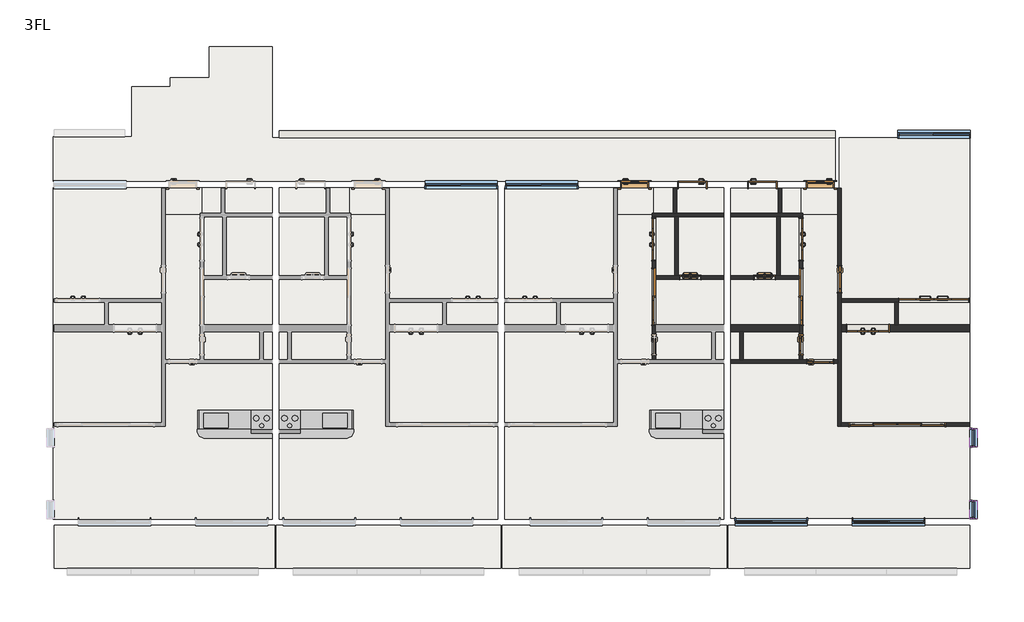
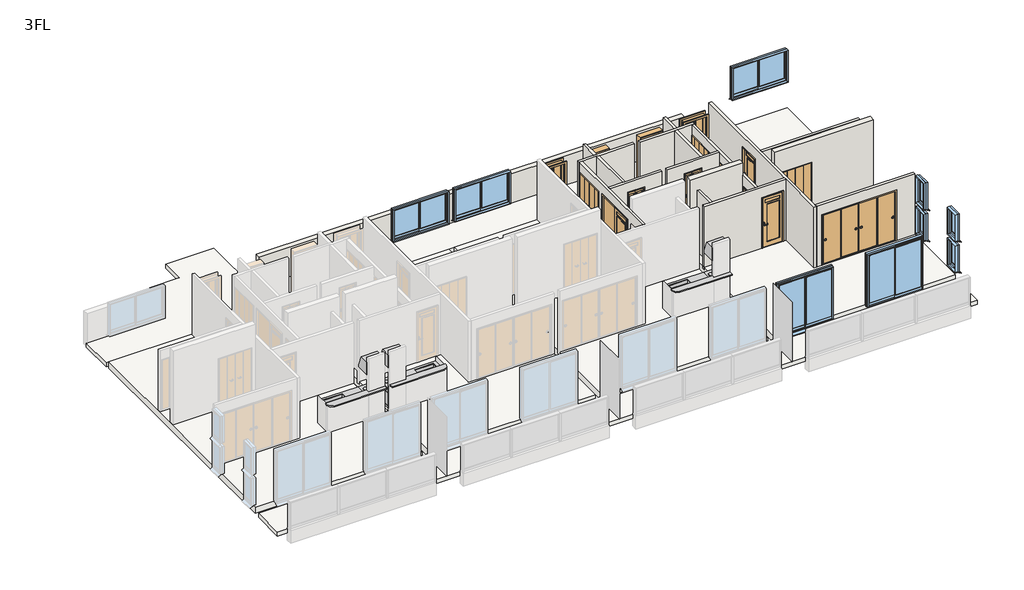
# One storey, part 3 of 3: 19 walls, 16 doors, 14 slabs, 9 windows, 3 flow terminals, 3 furniture elements.
"""IFC4 building model written with IfcOpenShell, lengths in millimetres."""

from ifc_helpers import new_model, si_unit, frame, origin, place, context, project, spatial, polyline, outline, extrude, faceted_brep, transform, mapped, element, save
from components import door_800x2000_a7d1584b, door_800x2000_010bfebf, w1200h2000_6a144d60, w1200h2000_99d19fb3, w1200h2000_ebe1d490, w1600h2000_4c3c234a, w1600h2000_ca690e72, w2000h2000_5dbb6d6a, w2800h2000_04aa64cd, w600h2000_6a266bef, w600h2000_94bb9c3c, w600h2000_8ea70a65, w800h2000_1d97c4d4, w800h2000_0ab7d42c, w800h2000_13e9f519, w800h2000_ccb03061, flow_terminal_5276808d, flow_terminal_b13850ba, furniture_3a0496f9, furniture_dadabe7c, window_2000x1200_fc91d1cf, window_2000x2000_f1ff98da, window_450x1000_1cddc73c

model = new_model("IFC4")

# Units and contexts
model_context = context("Model", 3, world=origin())
ifc_project = project(units=[si_unit("LENGTHUNIT", "METRE", prefix="MILLI")], contexts=[model_context])

# Site, building, storey
site = spatial("IfcSite", under=ifc_project)
building = spatial("IfcBuilding", under=site)
storey = spatial("IfcBuildingStorey", under=building, Name="3FL", Elevation=7000.0)

# Doors
placement = place(None, origin())
door_800x2000_shape = door_800x2000_a7d1584b(model_context)
element("IfcDoor", 1, ObjectType="片開き3 : 800x2000", at=placement, inside=storey, context=model_context, shape_type="MappedRepresentation", body=[
    mapped(door_800x2000_shape, transform((5521.2812754, -5726.3671638, 7000.0), x_axis=(1.0, 0.0, 0.0), y_axis=(0.0, 1.0, 0.0), z_axis=(0.0, 0.0, 1.0))),
])
door_800x2000_2_shape = door_800x2000_010bfebf(model_context)
element("IfcDoor", 2, ObjectType="片開き3 : 800x2000", at=placement, inside=storey, context=model_context, shape_type="MappedRepresentation", body=[
    mapped(door_800x2000_2_shape, transform((10821.2812754, -5726.3671638, 7000.0), x_axis=(-1.0, 0.0, 0.0), y_axis=(0.0, -1.0, 0.0), z_axis=(0.0, 0.0, 1.0))),
])
w1200h2000_shape = w1200h2000_6a144d60(model_context)
element("IfcDoor", 3, ObjectType="木製折戸 : w1200h2000", at=placement, inside=storey, context=model_context, shape_type="MappedRepresentation", body=[
    mapped(w1200h2000_shape, transform((6071.2812754, -7280.1171638, 7100.0), x_axis=(0.0, 1.0, 0.0), y_axis=(-1.0, 0.0, 0.0), z_axis=(0.0, 0.0, 1.0))),
])
w1200h2000_2_shape = w1200h2000_99d19fb3(model_context)
element("IfcDoor", 4, ObjectType="木製折戸 : w1200h2000", at=placement, inside=storey, context=model_context, shape_type="MappedRepresentation", body=[
    mapped(w1200h2000_2_shape, transform((10271.2812754, -7280.1171638, 7100.0), x_axis=(0.0, 1.0, 0.0), y_axis=(-1.0, 0.0, 0.0), z_axis=(0.0, 0.0, 1.0))),
])
w1200h2000_3_shape = w1200h2000_ebe1d490(model_context)
element("IfcDoor", 5, ObjectType="木製折戸 : w1200h2000", at=placement, inside=storey, context=model_context, shape_type="MappedRepresentation", body=[
    mapped(w1200h2000_3_shape, transform((12183.7812754, -9820.1171638, 7100.0), x_axis=(1.0, 0.0, 0.0), y_axis=(0.0, 1.0, 0.0), z_axis=(0.0, 0.0, 1.0))),
])
w1600h2000_shape = w1600h2000_4c3c234a(model_context)
element("IfcDoor", 6, ObjectType="片引戸CL2017 : w1600h2000", at=placement, inside=storey, context=model_context, shape_type="MappedRepresentation", body=[
    mapped(w1600h2000_shape, transform((6071.2812754, -8920.1171638, 7100.0), x_axis=(0.0, -1.0, 0.0), y_axis=(1.0, 0.0, 0.0), z_axis=(0.0, 0.0, 1.0))),
])
w1600h2000_2_shape = w1600h2000_ca690e72(model_context)
element("IfcDoor", 7, ObjectType="片引戸CL2017 : w1600h2000", at=placement, inside=storey, context=model_context, shape_type="MappedRepresentation", body=[
    mapped(w1600h2000_2_shape, transform((10271.2812754, -8920.1171638, 7100.0), x_axis=(0.0, -1.0, 0.0), y_axis=(1.0, 0.0, 0.0), z_axis=(0.0, 0.0, 1.0))),
])
w2000h2000_shape = w2000h2000_5dbb6d6a(model_context)
element("IfcDoor", 8, ObjectType="木製折戸 : w2000h2000", at=placement, inside=storey, context=model_context, shape_type="MappedRepresentation", body=[
    mapped(w2000h2000_shape, transform((14066.2812754, -9020.1171638, 7100.0), x_axis=(-1.0, 0.0, 0.0), y_axis=(0.0, -1.0, 0.0), z_axis=(0.0, 0.0, 1.0))),
])
w2800h2000_shape = w2800h2000_04aa64cd(model_context)
element("IfcDoor", 9, ObjectType="引違い 4 枚 2 溝_襖 : w2800h2000", at=placement, inside=storey, context=model_context, shape_type="MappedRepresentation", body=[
    mapped(w2800h2000_shape, transform((13026.8167793, -12570.1171638, 7100.0), x_axis=(1.0, 0.0, 0.0), y_axis=(0.0, 1.0, 0.0), z_axis=(0.0, 0.0, 1.0))),
])
w600h2000_shape = w600h2000_6a266bef(model_context)
element("IfcDoor", 10, ObjectType="浴室折戸 : w600h2000", at=placement, inside=storey, context=model_context, shape_type="MappedRepresentation", body=[
    mapped(w600h2000_shape, transform((7111.2812754, -8370.1171638, 7100.0), x_axis=(1.0, 0.0, 0.0), y_axis=(0.0, 1.0, 0.0), z_axis=(0.0, 0.0, 1.0))),
])
w600h2000_2_shape = w600h2000_94bb9c3c(model_context)
element("IfcDoor", 11, ObjectType="浴室折戸 : w600h2000", at=placement, inside=storey, context=model_context, shape_type="MappedRepresentation", body=[
    mapped(w600h2000_2_shape, transform((9231.2812754, -8370.1171638, 7100.0), x_axis=(-1.0, 0.0, 0.0), y_axis=(0.0, -1.0, 0.0), z_axis=(0.0, 0.0, 1.0))),
])
w600h2000_3_shape = w600h2000_8ea70a65(model_context)
element("IfcDoor", 12, ObjectType="片開戸CL2058 : w600h2000", at=placement, inside=storey, context=model_context, shape_type="MappedRepresentation", body=[
    mapped(w600h2000_3_shape, transform((10271.2812754, -10295.1171638, 7100.0), x_axis=(0.0, -1.0, 0.0), y_axis=(1.0, 0.0, 0.0), z_axis=(0.0, 0.0, 1.0))),
])
w800h2000_shape = w800h2000_1d97c4d4(model_context)
element("IfcDoor", 13, ObjectType="片開 : w800h2000", at=placement, inside=storey, context=model_context, shape_type="MappedRepresentation", body=[
    mapped(w800h2000_shape, transform((7171.2812754, -5726.3671638, 7000.0), x_axis=(-1.0, 0.0, 0.0), y_axis=(0.0, -1.0, 0.0), z_axis=(0.0, 0.0, 1.0))),
])
w800h2000_2_shape = w800h2000_0ab7d42c(model_context)
element("IfcDoor", 14, ObjectType="片開 : w800h2000", at=placement, inside=storey, context=model_context, shape_type="MappedRepresentation", body=[
    mapped(w800h2000_2_shape, transform((9171.2812754, -5726.3671638, 7000.0), x_axis=(1.0, 0.0, 0.0), y_axis=(0.0, 1.0, 0.0), z_axis=(0.0, 0.0, 1.0))),
])
w800h2000_3_shape = w800h2000_13e9f519(model_context)
element("IfcDoor", 15, ObjectType="片開戸CL2058 : w800h2000", at=placement, inside=storey, context=model_context, shape_type="MappedRepresentation", body=[
    mapped(w800h2000_3_shape, transform((10821.2812754, -10770.1171638, 7100.0), x_axis=(1.0, 0.0, 0.0), y_axis=(0.0, 1.0, 0.0), z_axis=(0.0, 0.0, 1.0))),
])
w800h2000_4_shape = w800h2000_ccb03061(model_context)
element("IfcDoor", 16, ObjectType="片開戸CL2058 : w800h2000", at=placement, inside=storey, context=model_context, shape_type="MappedRepresentation", body=[
    mapped(w800h2000_4_shape, transform((11371.2812754, -8420.1171638, 7100.0), x_axis=(0.0, -1.0, 0.0), y_axis=(1.0, 0.0, 0.0), z_axis=(0.0, 0.0, 1.0))),
])

# Flow terminals
flow_terminal_shape = flow_terminal_5276808d(model_context)
element("IfcFlowTerminal", 17, ObjectType="システムキッチンIH : システムキッチンIH", at=placement, inside=storey, context=model_context, shape_type="MappedRepresentation", body=[
    mapped(flow_terminal_shape, transform((-4828.7187246, -12720.1171638, 7200.0), x_axis=(1.0, 0.0, 0.0), y_axis=(0.0, 1.0, 0.0), z_axis=(0.0, 0.0, 1.0))),
])
element("IfcFlowTerminal", 18, ObjectType="システムキッチンIH : システムキッチンIH", at=placement, inside=storey, context=model_context, shape_type="MappedRepresentation", body=[
    mapped(flow_terminal_shape, transform((8071.2812754, -12720.1171638, 7200.0), x_axis=(1.0, 0.0, 0.0), y_axis=(0.0, 1.0, 0.0), z_axis=(0.0, 0.0, 1.0))),
])
flow_terminal_2_shape = flow_terminal_b13850ba(model_context)
element("IfcFlowTerminal", 19, ObjectType="システムキッチンIH : システムキッチンIH", at=placement, inside=storey, context=model_context, shape_type="MappedRepresentation", body=[
    mapped(flow_terminal_2_shape, transform((-4628.7187246, -12720.1171638, 7200.0), x_axis=(-1.0, 0.0, 0.0), y_axis=(0.0, -1.0, 0.0), z_axis=(0.0, 0.0, 1.0))),
])

# Furniture
furniture_shape = furniture_3a0496f9(model_context)
element("IfcFurniture", 20, ObjectType="キッチンカウンター : キッチンカウンター", at=placement, inside=storey, context=model_context, shape_type="MappedRepresentation", body=[
    mapped(furniture_shape, transform((-4628.7187246, -12820.1171638, 7100.0), x_axis=(-1.0, 0.0, 0.0), y_axis=(0.0, -1.0, 0.0), z_axis=(0.0, 0.0, 1.0))),
])
furniture_2_shape = furniture_dadabe7c(model_context)
element("IfcFurniture", 21, ObjectType="キッチンカウンター : キッチンカウンター", at=placement, inside=storey, context=model_context, shape_type="MappedRepresentation", body=[
    mapped(furniture_2_shape, transform((-4828.7187246, -12820.1171638, 7100.0), x_axis=(1.0, 0.0, 0.0), y_axis=(0.0, 1.0, 0.0), z_axis=(0.0, 0.0, 1.0))),
])
element("IfcFurniture", 22, ObjectType="キッチンカウンター : キッチンカウンター", at=placement, inside=storey, context=model_context, shape_type="MappedRepresentation", body=[
    mapped(furniture_2_shape, transform((8071.2812754, -12820.1171638, 7100.0), x_axis=(1.0, 0.0, 0.0), y_axis=(0.0, 1.0, 0.0), z_axis=(0.0, 0.0, 1.0))),
])

# Slabs
element("IfcSlab", 23, ObjectType="RC150＋100", at=placement, inside=storey, context=model_context, shape_type="SweptSolid", body=[
    extrude(outline(polyline([(-4828.7187246, -15270.1171638), (-11078.7187246, -15270.1171638), (-11078.7187246, -5800.1171638), (-7928.7187246, -5800.1171638), (-7928.7187246, -6580.1171638), (-6828.7187246, -6580.1171638), (-6828.7187246, -5800.1171638), (-4828.7187246, -5800.1171638), (-4828.7187246, -6580.1171638), (-6188.7187246, -6580.1171638), (-6188.7187246, -8370.1171638), (-4828.7187246, -8370.1171638), (-4828.7187246, -15270.1171638)])), frame((0.0, 0.0, 6850.0), z_axis=(0.0, 0.0, 1.0), x_axis=(1.0, 0.0, 0.0)), (0.0, 0.0, 1.0), 250.0),
])
element("IfcSlab", 24, ObjectType="RC150＋100", at=placement, inside=storey, context=model_context, shape_type="SweptSolid", body=[
    extrude(outline(polyline([(-4628.7187246, -15270.1171638), (-4628.7187246, -8370.1171638), (-3268.7187246, -8370.1171638), (-3268.7187246, -6580.1171638), (-4628.7187246, -6580.1171638), (-4628.7187246, -5800.1171638), (-2628.7187246, -5800.1171638), (-2628.7187246, -6580.1171638), (-1528.7187246, -6580.1171638), (-1528.7187246, -5800.1171638), (1621.2812754, -5800.1171638), (1621.2812754, -15270.1171638), (-4628.7187246, -15270.1171638)])), frame((0.0, 0.0, 6850.0), z_axis=(0.0, 0.0, 1.0), x_axis=(1.0, 0.0, 0.0)), (0.0, 0.0, 1.0), 250.0),
])
element("IfcSlab", 25, ObjectType="RC150＋100", at=placement, inside=storey, context=model_context, shape_type="SweptSolid", body=[
    extrude(outline(polyline([(8071.2812754, -15270.1171638), (1821.2812754, -15270.1171638), (1821.2812754, -5800.1171638), (4971.2812754, -5800.1171638), (4971.2812754, -6580.1171638), (6071.2812754, -6580.1171638), (6071.2812754, -5800.1171638), (8071.2812754, -5800.1171638), (8071.2812754, -6580.1171638), (6711.2812754, -6580.1171638), (6711.2812754, -8370.1171638), (8071.2812754, -8370.1171638), (8071.2812754, -15270.1171638)])), frame((0.0, 0.0, 6850.0), z_axis=(0.0, 0.0, 1.0), x_axis=(1.0, 0.0, 0.0)), (0.0, 0.0, 1.0), 250.0),
])
element("IfcSlab", 26, ObjectType="RC150＋100", at=placement, inside=storey, context=model_context, shape_type="SweptSolid", body=[
    extrude(outline(polyline([(8271.2812754, -15243.8671638), (8271.2812754, -8370.1171638), (9631.2812754, -8370.1171638), (9631.2812754, -6580.1171638), (8271.2812754, -6580.1171638), (8271.2812754, -5826.3671638), (10271.2812754, -5826.3671638), (10271.2812754, -6580.1171638), (11371.2812754, -6580.1171638), (11371.2812754, -4376.3671638), (15095.0312754, -4376.3671638), (15095.0312754, -15243.8671638), (8271.2812754, -15243.8671638)])), frame((0.0, 0.0, 6850.0), z_axis=(0.0, 0.0, 1.0), x_axis=(1.0, 0.0, 0.0)), (0.0, 0.0, 1.0), 250.0),
])
element("IfcSlab", 27, ObjectType="RC150", at=placement, inside=storey, context=model_context, shape_type="SweptSolid", body=[
    extrude(outline(polyline([(-4828.7187246, -8370.1171638), (-6188.7187246, -8370.1171638), (-6188.7187246, -6580.1171638), (-4828.7187246, -6580.1171638), (-4828.7187246, -8370.1171638)])), frame((0.0, 0.0, 6850.0), z_axis=(0.0, 0.0, 1.0), x_axis=(1.0, 0.0, 0.0)), (0.0, 0.0, 1.0), 150.0),
])
element("IfcSlab", 28, ObjectType="RC150", at=placement, inside=storey, context=model_context, shape_type="SweptSolid", body=[
    extrude(outline(polyline([(-6828.7187246, -6580.1171638), (-7928.7187246, -6580.1171638), (-7928.7187246, -5800.1171638), (-6828.7187246, -5800.1171638), (-6828.7187246, -6580.1171638)])), frame((0.0, 0.0, 6800.0), z_axis=(0.0, 0.0, 1.0), x_axis=(1.0, 0.0, 0.0)), (0.0, 0.0, 1.0), 150.0),
])
element("IfcSlab", 29, ObjectType="RC150", at=placement, inside=storey, context=model_context, shape_type="SweptSolid", body=[
    extrude(outline(polyline([(-4628.7187246, -8370.1171638), (-4628.7187246, -6580.1171638), (-3268.7187246, -6580.1171638), (-3268.7187246, -8370.1171638), (-4628.7187246, -8370.1171638)])), frame((0.0, 0.0, 6850.0), z_axis=(0.0, 0.0, 1.0), x_axis=(1.0, 0.0, 0.0)), (0.0, 0.0, 1.0), 150.0),
])
element("IfcSlab", 30, ObjectType="RC150", at=placement, inside=storey, context=model_context, shape_type="SweptSolid", body=[
    extrude(outline(polyline([(-2628.7187246, -6580.1171638), (-2628.7187246, -5800.1171638), (-1528.7187246, -5800.1171638), (-1528.7187246, -6580.1171638), (-2628.7187246, -6580.1171638)])), frame((0.0, 0.0, 6800.0), z_axis=(0.0, 0.0, 1.0), x_axis=(1.0, 0.0, 0.0)), (0.0, 0.0, 1.0), 150.0),
])
element("IfcSlab", 31, ObjectType="RC150", at=placement, inside=storey, context=model_context, shape_type="SweptSolid", body=[
    extrude(outline(polyline([(8071.2812754, -8370.1171638), (6711.2812754, -8370.1171638), (6711.2812754, -6580.1171638), (8071.2812754, -6580.1171638), (8071.2812754, -8370.1171638)])), frame((0.0, 0.0, 6850.0), z_axis=(0.0, 0.0, 1.0), x_axis=(1.0, 0.0, 0.0)), (0.0, 0.0, 1.0), 150.0),
])
element("IfcSlab", 32, ObjectType="RC150", at=placement, inside=storey, context=model_context, shape_type="SweptSolid", body=[
    extrude(outline(polyline([(6071.2812754, -6580.1171638), (4971.2812754, -6580.1171638), (4971.2812754, -5800.1171638), (6071.2812754, -5800.1171638), (6071.2812754, -6580.1171638)])), frame((0.0, 0.0, 6800.0), z_axis=(0.0, 0.0, 1.0), x_axis=(1.0, 0.0, 0.0)), (0.0, 0.0, 1.0), 150.0),
])
element("IfcSlab", 33, ObjectType="RC150", at=placement, inside=storey, context=model_context, shape_type="SweptSolid", body=[
    extrude(outline(polyline([(8271.2812754, -8370.1171638), (8271.2812754, -6580.1171638), (9631.2812754, -6580.1171638), (9631.2812754, -8370.1171638), (8271.2812754, -8370.1171638)])), frame((0.0, 0.0, 6850.0), z_axis=(0.0, 0.0, 1.0), x_axis=(1.0, 0.0, 0.0)), (0.0, 0.0, 1.0), 150.0),
])
element("IfcSlab", 34, ObjectType="RC150", at=placement, inside=storey, context=model_context, shape_type="SweptSolid", body=[
    extrude(outline(polyline([(10271.2812754, -6580.1171638), (10271.2812754, -5826.3671638), (11371.2812754, -5826.3671638), (11371.2812754, -6580.1171638), (10271.2812754, -6580.1171638)])), frame((0.0, 0.0, 6800.0), z_axis=(0.0, 0.0, 1.0), x_axis=(1.0, 0.0, 0.0)), (0.0, 0.0, 1.0), 150.0),
])
element("IfcSlab", 35, ObjectType="RC150", at=placement, inside=storey, context=model_context, shape_type="SweptSolid", body=[
    extrude(outline(polyline([(15095.0312754, -15443.8671638), (15095.0312754, -16670.1171638), (-11052.4687246, -16670.1171638), (-11052.4687246, -15443.8671638), (15095.0312754, -15443.8671638)])), frame((0.0, 0.0, 6800.0), z_axis=(0.0, 0.0, 1.0), x_axis=(1.0, 0.0, 0.0)), (0.0, 0.0, 1.0), 150.0),
])
element("IfcSlab", 36, ObjectType="RC150", at=placement, inside=storey, context=model_context, shape_type="SweptSolid", body=[
    extrude(outline(polyline([(-8828.7187246, -4350.1171638), (-8828.7187246, -2920.1171638), (-7728.7187246, -2920.1171638), (-7728.7187246, -2660.1171638), (-6628.7187246, -2660.1171638), (-6628.7187246, -1775.1171638), (-4828.7187246, -1775.1171638), (-4828.7187246, -4376.3671638), (11247.5312754, -4376.3671638), (11247.5312754, -5626.3671638), (-11078.7187246, -5626.3671638), (-11078.7187246, -4350.1171638), (-8828.7187246, -4350.1171638)])), frame((0.0, 0.0, 6800.0), z_axis=(0.0, 0.0, 1.0), x_axis=(1.0, 0.0, 0.0)), (0.0, 0.0, 1.0), 150.0),
])

# Walls
element("IfcWall", 37, ObjectType="(R)RC200", at=placement, inside=storey, context=model_context, shape_type="Brep", body=[
    faceted_brep([(15095.0312754, -9720.1171638, 7000.0), (13046.2812754, -9720.1171638, 7000.0), (12946.2812754, -9720.1171638, 7000.0), (11421.2812754, -9720.1171638, 7000.0), (11421.2812754, -9720.1171638, 10000.0), (15095.0312754, -9720.1171638, 10000.0), (12803.7812754, -9720.1171638, 9120.0), (11563.7812754, -9720.1171638, 9120.0), (11563.7812754, -9720.1171638, 7100.0), (12803.7812754, -9720.1171638, 7100.0), (15095.0312754, -9920.1171638, 7000.0), (15095.0312754, -9920.1171638, 10000.0), (11421.2812754, -9920.1171638, 10000.0), (11421.2812754, -9920.1171638, 7000.0), (12803.7812754, -9920.1171638, 9120.0), (12803.7812754, -9920.1171638, 7100.0), (11563.7812754, -9920.1171638, 7100.0), (11563.7812754, -9920.1171638, 9120.0)], [[[0, 1, 2, 3, 4, 5], [6, 7, 8, 9]], [[10, 11, 12, 13], [14, 15, 16, 17]], [[3, 2, 1, 0, 10, 13]], [[5, 4, 12, 11]], [[4, 3, 13, 12]], [[15, 14, 6, 9]], [[16, 15, 9, 8]], [[17, 16, 8, 7]], [[14, 17, 7, 6]], [[0, 5, 11, 10]]]),
])
element("IfcWall", 38, ObjectType="(R)RC200", at=placement, inside=storey, context=model_context, shape_type="Brep", body=[
    faceted_brep([(10221.2812754, -9720.1171638, 7000.0), (8271.2812754, -9720.1171638, 7000.0), (8271.2812754, -9720.1171638, 10000.0), (10221.2812754, -9720.1171638, 10000.0), (10221.2812754, -9920.1171638, 7000.0), (10221.2812754, -9920.1171638, 10000.0), (8271.2812754, -9920.1171638, 10000.0), (8271.2812754, -9920.1171638, 7000.0), (8521.2812754, -9920.1171638, 7000.0), (8621.2812754, -9920.1171638, 7000.0)], [[[0, 1, 2, 3]], [[4, 5, 6, 7, 8, 9]], [[1, 0, 4, 9, 8, 7]], [[3, 2, 6, 5]], [[0, 3, 5, 4]], [[2, 1, 7, 6]]]),
])
element("IfcWall", 39, ObjectType="(R)RC200", at=placement, inside=storey, context=model_context, shape_type="SweptSolid", body=[
    extrude(outline(polyline([(11247.5312754, -4376.3671638), (-4628.7187246, -4376.3671638), (-4628.7187246, -4176.3671638), (11247.5312754, -4176.3671638), (11247.5312754, -4376.3671638)])), frame((0.0, 0.0, 6800.0), z_axis=(0.0, 0.0, 1.0), x_axis=(1.0, 0.0, 0.0)), (0.0, 0.0, 1.0), 1300.0),
])
element("IfcWall", 40, ObjectType="(L1)LGS100", at=placement, inside=storey, context=model_context, shape_type="Brep", body=[
    faceted_brep([(6121.2812754, -8420.1171638, 7000.0), (8071.2812754, -8420.1171638, 7000.0), (8071.2812754, -8420.1171638, 9500.0), (6121.2812754, -8420.1171638, 9500.0), (7431.2812754, -8420.1171638, 9120.0), (7431.2812754, -8420.1171638, 7100.0), (6791.2812754, -8420.1171638, 7100.0), (6791.2812754, -8420.1171638, 9120.0), (6121.2812754, -8320.1171638, 7000.0), (6121.2812754, -8320.1171638, 9500.0), (6661.2812754, -8320.1171638, 9500.0), (6761.2812754, -8320.1171638, 9500.0), (8071.2812754, -8320.1171638, 9500.0), (8071.2812754, -8320.1171638, 7000.0), (6761.2812754, -8320.1171638, 7000.0), (6661.2812754, -8320.1171638, 7000.0), (7431.2812754, -8320.1171638, 9120.0), (6791.2812754, -8320.1171638, 9120.0), (6791.2812754, -8320.1171638, 7100.0), (7431.2812754, -8320.1171638, 7100.0)], [[[0, 1, 2, 3], [4, 5, 6, 7]], [[8, 9, 10, 11, 12, 13, 14, 15], [16, 17, 18, 19]], [[1, 0, 8, 15, 14, 13]], [[3, 2, 12, 11, 10, 9]], [[0, 3, 9, 8]], [[5, 4, 16, 19]], [[6, 5, 19, 18]], [[7, 6, 18, 17]], [[4, 7, 17, 16]], [[2, 1, 13, 12]]]),
])
element("IfcWall", 41, ObjectType="(L1)LGS100", at=placement, inside=storey, context=model_context, shape_type="Brep", body=[
    faceted_brep([(6121.2812754, -10720.1171638, 7000.0), (6121.2812754, -9920.1171638, 7000.0), (6121.2812754, -9720.1171638, 7000.0), (6121.2812754, -8420.1171638, 7000.0), (6121.2812754, -8320.1171638, 7000.0), (6121.2812754, -6630.1171638, 7000.0), (6121.2812754, -6630.1171638, 9500.0), (6121.2812754, -8320.1171638, 9500.0), (6121.2812754, -8420.1171638, 9500.0), (6121.2812754, -10720.1171638, 9500.0), (6121.2812754, -10595.1171638, 7100.0), (6121.2812754, -10595.1171638, 9100.0), (6121.2812754, -9995.1171638, 9100.0), (6121.2812754, -9995.1171638, 7100.0), (6121.2812754, -6660.1171638, 7100.0), (6121.2812754, -7900.1171638, 7100.0), (6121.2812754, -7900.1171638, 9120.0), (6121.2812754, -6660.1171638, 9120.0), (6121.2812754, -9745.1171638, 7100.0), (6121.2812754, -9745.1171638, 9140.0), (6121.2812754, -8095.1171638, 9140.0), (6121.2812754, -8095.1171638, 7100.0), (6021.2812754, -6630.1171638, 7000.0), (6021.2812754, -10720.1171638, 7000.0), (6021.2812754, -10720.1171638, 9500.0), (6021.2812754, -6630.1171638, 9500.0), (6021.2812754, -10595.1171638, 9100.0), (6021.2812754, -10595.1171638, 7100.0), (6021.2812754, -9995.1171638, 7100.0), (6021.2812754, -9995.1171638, 9100.0), (6021.2812754, -7900.1171638, 7100.0), (6021.2812754, -6660.1171638, 7100.0), (6021.2812754, -6660.1171638, 9120.0), (6021.2812754, -7900.1171638, 9120.0), (6021.2812754, -9745.1171638, 7100.0), (6021.2812754, -8095.1171638, 7100.0), (6021.2812754, -8095.1171638, 9140.0), (6021.2812754, -9745.1171638, 9140.0)], [[[0, 1, 2, 3, 4, 5, 6, 7, 8, 9], [10, 11, 12, 13], [14, 15, 16, 17], [18, 19, 20, 21]], [[22, 23, 24, 25], [26, 27, 28, 29], [30, 31, 32, 33], [34, 35, 36, 37]], [[5, 4, 3, 2, 1, 0, 23, 22]], [[9, 8, 7, 6, 25, 24]], [[0, 9, 24, 23]], [[11, 10, 27, 26]], [[12, 11, 26, 29]], [[13, 12, 29, 28]], [[10, 13, 28, 27]], [[14, 31, 30, 15]], [[15, 30, 33, 16]], [[16, 33, 32, 17]], [[19, 18, 34, 37]], [[20, 19, 37, 36]], [[21, 20, 36, 35]], [[18, 21, 35, 34]], [[31, 14, 17, 32]], [[6, 5, 22, 25]]]),
])
element("IfcWall", 42, ObjectType="(L1)LGS100", at=placement, inside=storey, context=model_context, shape_type="Brep", body=[
    faceted_brep([(6021.2812754, -6630.1171638, 7000.0), (6121.2812754, -6630.1171638, 7000.0), (6661.2812754, -6630.1171638, 7000.0), (6761.2812754, -6630.1171638, 7000.0), (8071.2812754, -6630.1171638, 7000.0), (8071.2812754, -6630.1171638, 9500.0), (6761.2812754, -6630.1171638, 9500.0), (6661.2812754, -6630.1171638, 9500.0), (6121.2812754, -6630.1171638, 9500.0), (6021.2812754, -6630.1171638, 9500.0), (6021.2812754, -6530.1171638, 7000.0), (6021.2812754, -6530.1171638, 9500.0), (6621.2812754, -6530.1171638, 9500.0), (6721.2812754, -6530.1171638, 9500.0), (8071.2812754, -6530.1171638, 9500.0), (8071.2812754, -6530.1171638, 7000.0), (6721.2812754, -6530.1171638, 7000.0), (6621.2812754, -6530.1171638, 7000.0)], [[[0, 1, 2, 3, 4, 5, 6, 7, 8, 9]], [[10, 11, 12, 13, 14, 15, 16, 17]], [[4, 3, 2, 1, 0, 10, 17, 16, 15]], [[9, 8, 7, 6, 5, 14, 13, 12, 11]], [[0, 9, 11, 10]], [[5, 4, 15, 14]]]),
])
element("IfcWall", 43, ObjectType="(L1)LGS100", at=placement, inside=storey, context=model_context, shape_type="SweptSolid", body=[
    extrude(outline(polyline([(6721.2812754, -5826.3671638), (6721.2812754, -6530.1171638), (6621.2812754, -6530.1171638), (6621.2812754, -5826.3671638), (6721.2812754, -5826.3671638)])), frame((0.0, 0.0, 7000.0), z_axis=(0.0, 0.0, 1.0), x_axis=(1.0, 0.0, 0.0)), (0.0, 0.0, 1.0), 2500.0),
])
element("IfcWall", 44, ObjectType="(L1)LGS100", at=placement, inside=storey, context=model_context, shape_type="SweptSolid", body=[
    extrude(outline(polyline([(6761.2812754, -6630.1171638), (6761.2812754, -8320.1171638), (6661.2812754, -8320.1171638), (6661.2812754, -6630.1171638), (6761.2812754, -6630.1171638)])), frame((0.0, 0.0, 7000.0), z_axis=(0.0, 0.0, 1.0), x_axis=(1.0, 0.0, 0.0)), (0.0, 0.0, 1.0), 2500.0),
])
element("IfcWall", 45, ObjectType="(L1)LGS100", at=placement, inside=storey, context=model_context, shape_type="Brep", body=[
    faceted_brep([(15095.0312754, -8970.1171638, 7000.0), (11421.2812754, -8970.1171638, 7000.0), (11421.2812754, -8970.1171638, 9500.0), (15095.0312754, -8970.1171638, 9500.0), (13046.2812754, -8970.1171638, 9120.0), (13046.2812754, -8970.1171638, 7100.0), (15086.2812754, -8970.1171638, 7100.0), (15086.2812754, -8970.1171638, 9120.0), (11421.2812754, -9070.1171638, 7000.0), (12946.2812754, -9070.1171638, 7000.0), (13046.2812754, -9070.1171638, 7000.0), (15095.0312754, -9070.1171638, 7000.0), (15095.0312754, -9070.1171638, 9500.0), (13046.2812754, -9070.1171638, 9500.0), (12946.2812754, -9070.1171638, 9500.0), (11421.2812754, -9070.1171638, 9500.0), (13046.2812754, -9070.1171638, 7100.0), (13046.2812754, -9070.1171638, 9120.0), (15086.2812754, -9070.1171638, 9120.0), (15086.2812754, -9070.1171638, 7100.0)], [[[0, 1, 2, 3], [4, 5, 6, 7]], [[8, 9, 10, 11, 12, 13, 14, 15], [16, 17, 18, 19]], [[1, 0, 11, 10, 9, 8]], [[3, 2, 15, 14, 13, 12]], [[2, 1, 8, 15]], [[4, 17, 16, 5]], [[5, 16, 19, 6]], [[17, 4, 7, 18]], [[18, 7, 6, 19]], [[0, 3, 12, 11]]]),
])
element("IfcWall", 46, ObjectType="(L1)LGS100", at=placement, inside=storey, context=model_context, shape_type="Brep", body=[
    faceted_brep([(13046.2812754, -9720.1171638, 7000.0), (13046.2812754, -9070.1171638, 7000.0), (13046.2812754, -9070.1171638, 7100.0), (13046.2812754, -9070.1171638, 9120.0), (13046.2812754, -9070.1171638, 9500.0), (13046.2812754, -9720.1171638, 9500.0), (12946.2812754, -9720.1171638, 7000.0), (12946.2812754, -9720.1171638, 9500.0), (12946.2812754, -9070.1171638, 9500.0), (12946.2812754, -9070.1171638, 7000.0)], [[[0, 1, 2, 3, 4, 5]], [[6, 7, 8, 9]], [[1, 0, 6, 9]], [[5, 4, 8, 7]], [[0, 5, 7, 6]], [[4, 3, 2, 1, 9, 8]]]),
])
element("IfcWall", 47, ObjectType="(L1)LGS100", at=placement, inside=storey, context=model_context, shape_type="Brep", body=[
    faceted_brep([(11421.2812754, -12620.1171638, 7000.0), (11421.2812754, -12520.1171638, 7000.0), (11421.2812754, -9920.1171638, 7000.0), (11421.2812754, -9720.1171638, 7000.0), (11421.2812754, -9070.1171638, 7000.0), (11421.2812754, -8970.1171638, 7000.0), (11421.2812754, -5826.3671638, 7000.0), (11421.2812754, -5826.3671638, 9500.0), (11421.2812754, -8970.1171638, 9500.0), (11421.2812754, -9070.1171638, 9500.0), (11421.2812754, -12520.1171638, 9500.0), (11421.2812754, -12620.1171638, 9500.0), (11421.2812754, -8820.1171638, 7100.0), (11421.2812754, -8820.1171638, 9100.0), (11421.2812754, -8020.1171638, 9100.0), (11421.2812754, -8020.1171638, 7100.0), (11321.2812754, -12620.1171638, 7000.0), (11321.2812754, -12620.1171638, 9500.0), (11321.2812754, -10820.1171638, 9500.0), (11321.2812754, -10720.1171638, 9500.0), (11321.2812754, -5826.3671638, 9500.0), (11321.2812754, -5826.3671638, 7000.0), (11321.2812754, -10720.1171638, 7000.0), (11321.2812754, -10820.1171638, 7000.0), (11321.2812754, -8820.1171638, 7100.0), (11321.2812754, -8020.1171638, 7100.0), (11321.2812754, -8020.1171638, 9100.0), (11321.2812754, -8820.1171638, 9100.0)], [[[0, 1, 2, 3, 4, 5, 6, 7, 8, 9, 10, 11], [12, 13, 14, 15]], [[16, 17, 18, 19, 20, 21, 22, 23], [24, 25, 26, 27]], [[6, 5, 4, 3, 2, 1, 0, 16, 23, 22, 21]], [[11, 10, 9, 8, 7, 20, 19, 18, 17]], [[0, 11, 17, 16]], [[13, 12, 24, 27]], [[14, 13, 27, 26]], [[15, 14, 26, 25]], [[12, 15, 25, 24]], [[7, 6, 21, 20]]]),
])
element("IfcWall", 48, ObjectType="(L1)LGS100", at=placement, inside=storey, context=model_context, shape_type="Brep", body=[
    faceted_brep([(10221.2812754, -8320.1171638, 7000.0), (9681.2812754, -8320.1171638, 7000.0), (9581.2812754, -8320.1171638, 7000.0), (8271.2812754, -8320.1171638, 7000.0), (8271.2812754, -8320.1171638, 9500.0), (9581.2812754, -8320.1171638, 9500.0), (9681.2812754, -8320.1171638, 9500.0), (10221.2812754, -8320.1171638, 9500.0), (8911.2812754, -8320.1171638, 9120.0), (8911.2812754, -8320.1171638, 7100.0), (9551.2812754, -8320.1171638, 7100.0), (9551.2812754, -8320.1171638, 9120.0), (10221.2812754, -8420.1171638, 7000.0), (10221.2812754, -8420.1171638, 9500.0), (8271.2812754, -8420.1171638, 9500.0), (8271.2812754, -8420.1171638, 7000.0), (8911.2812754, -8420.1171638, 9120.0), (9551.2812754, -8420.1171638, 9120.0), (9551.2812754, -8420.1171638, 7100.0), (8911.2812754, -8420.1171638, 7100.0)], [[[0, 1, 2, 3, 4, 5, 6, 7], [8, 9, 10, 11]], [[12, 13, 14, 15], [16, 17, 18, 19]], [[3, 2, 1, 0, 12, 15]], [[7, 6, 5, 4, 14, 13]], [[0, 7, 13, 12]], [[9, 8, 16, 19]], [[10, 9, 19, 18]], [[11, 10, 18, 17]], [[8, 11, 17, 16]], [[4, 3, 15, 14]]]),
])
element("IfcWall", 49, ObjectType="(L1)LGS100", at=placement, inside=storey, context=model_context, shape_type="Brep", body=[
    faceted_brep([(10321.2812754, -10720.1171638, 7000.0), (10321.2812754, -6630.1171638, 7000.0), (10321.2812754, -6630.1171638, 9500.0), (10321.2812754, -10720.1171638, 9500.0), (10321.2812754, -10595.1171638, 7100.0), (10321.2812754, -10595.1171638, 9100.0), (10321.2812754, -9995.1171638, 9100.0), (10321.2812754, -9995.1171638, 7100.0), (10321.2812754, -6660.1171638, 7100.0), (10321.2812754, -7900.1171638, 7100.0), (10321.2812754, -7900.1171638, 9120.0), (10321.2812754, -6660.1171638, 9120.0), (10321.2812754, -9745.1171638, 7100.0), (10321.2812754, -9745.1171638, 9140.0), (10321.2812754, -8095.1171638, 9140.0), (10321.2812754, -8095.1171638, 7100.0), (10221.2812754, -6630.1171638, 7000.0), (10221.2812754, -8320.1171638, 7000.0), (10221.2812754, -8420.1171638, 7000.0), (10221.2812754, -9720.1171638, 7000.0), (10221.2812754, -9920.1171638, 7000.0), (10221.2812754, -10720.1171638, 7000.0), (10221.2812754, -10720.1171638, 9500.0), (10221.2812754, -8420.1171638, 9500.0), (10221.2812754, -8320.1171638, 9500.0), (10221.2812754, -6630.1171638, 9500.0), (10221.2812754, -10595.1171638, 9100.0), (10221.2812754, -10595.1171638, 7100.0), (10221.2812754, -9995.1171638, 7100.0), (10221.2812754, -9995.1171638, 9100.0), (10221.2812754, -7900.1171638, 7100.0), (10221.2812754, -6660.1171638, 7100.0), (10221.2812754, -6660.1171638, 9120.0), (10221.2812754, -7900.1171638, 9120.0), (10221.2812754, -9745.1171638, 7100.0), (10221.2812754, -8095.1171638, 7100.0), (10221.2812754, -8095.1171638, 9140.0), (10221.2812754, -9745.1171638, 9140.0)], [[[0, 1, 2, 3], [4, 5, 6, 7], [8, 9, 10, 11], [12, 13, 14, 15]], [[16, 17, 18, 19, 20, 21, 22, 23, 24, 25], [26, 27, 28, 29], [30, 31, 32, 33], [34, 35, 36, 37]], [[1, 0, 21, 20, 19, 18, 17, 16]], [[3, 2, 25, 24, 23, 22]], [[0, 3, 22, 21]], [[2, 1, 16, 25]], [[5, 4, 27, 26]], [[6, 5, 26, 29]], [[7, 6, 29, 28]], [[4, 7, 28, 27]], [[8, 31, 30, 9]], [[9, 30, 33, 10]], [[10, 33, 32, 11]], [[13, 12, 34, 37]], [[14, 13, 37, 36]], [[15, 14, 36, 35]], [[12, 15, 35, 34]], [[31, 8, 11, 32]]]),
])
element("IfcWall", 50, ObjectType="(L1)LGS100", at=placement, inside=storey, context=model_context, shape_type="Brep", body=[
    faceted_brep([(10321.2812754, -6530.1171638, 7000.0), (9721.2812754, -6530.1171638, 7000.0), (9621.2812754, -6530.1171638, 7000.0), (8271.2812754, -6530.1171638, 7000.0), (8271.2812754, -6530.1171638, 9500.0), (9621.2812754, -6530.1171638, 9500.0), (9721.2812754, -6530.1171638, 9500.0), (10321.2812754, -6530.1171638, 9500.0), (10321.2812754, -6630.1171638, 7000.0), (10321.2812754, -6630.1171638, 9500.0), (10221.2812754, -6630.1171638, 9500.0), (9681.2812754, -6630.1171638, 9500.0), (9581.2812754, -6630.1171638, 9500.0), (8271.2812754, -6630.1171638, 9500.0), (8271.2812754, -6630.1171638, 7000.0), (9581.2812754, -6630.1171638, 7000.0), (9681.2812754, -6630.1171638, 7000.0), (10221.2812754, -6630.1171638, 7000.0)], [[[0, 1, 2, 3, 4, 5, 6, 7]], [[8, 9, 10, 11, 12, 13, 14, 15, 16, 17]], [[3, 2, 1, 0, 8, 17, 16, 15, 14]], [[7, 6, 5, 4, 13, 12, 11, 10, 9]], [[0, 7, 9, 8]], [[4, 3, 14, 13]]]),
])
element("IfcWall", 51, ObjectType="(L1)LGS100", at=placement, inside=storey, context=model_context, shape_type="SweptSolid", body=[
    extrude(outline(polyline([(9721.2812754, -5826.3671638), (9721.2812754, -6530.1171638), (9621.2812754, -6530.1171638), (9621.2812754, -5826.3671638), (9721.2812754, -5826.3671638)])), frame((0.0, 0.0, 7000.0), z_axis=(0.0, 0.0, 1.0), x_axis=(1.0, 0.0, 0.0)), (0.0, 0.0, 1.0), 2500.0),
])
element("IfcWall", 52, ObjectType="(L1)LGS100", at=placement, inside=storey, context=model_context, shape_type="SweptSolid", body=[
    extrude(outline(polyline([(9681.2812754, -6630.1171638), (9681.2812754, -8320.1171638), (9581.2812754, -8320.1171638), (9581.2812754, -6630.1171638), (9681.2812754, -6630.1171638)])), frame((0.0, 0.0, 7000.0), z_axis=(0.0, 0.0, 1.0), x_axis=(1.0, 0.0, 0.0)), (0.0, 0.0, 1.0), 2500.0),
])
element("IfcWall", 53, ObjectType="(L1)LGS100", at=placement, inside=storey, context=model_context, shape_type="SweptSolid", body=[
    extrude(outline(polyline([(8621.2812754, -9920.1171638), (8621.2812754, -10720.1171638), (8521.2812754, -10720.1171638), (8521.2812754, -9920.1171638), (8621.2812754, -9920.1171638)])), frame((0.0, 0.0, 7000.0), z_axis=(0.0, 0.0, 1.0), x_axis=(1.0, 0.0, 0.0)), (0.0, 0.0, 1.0), 2500.0),
])
element("IfcWall", 54, ObjectType="(L1)LGS100", at=placement, inside=storey, context=model_context, shape_type="Brep", body=[
    faceted_brep([(11321.2812754, -10720.1171638, 7000.0), (10321.2812754, -10720.1171638, 7000.0), (10221.2812754, -10720.1171638, 7000.0), (8621.2812754, -10720.1171638, 7000.0), (8521.2812754, -10720.1171638, 7000.0), (8271.2812754, -10720.1171638, 7000.0), (8271.2812754, -10720.1171638, 9500.0), (8521.2812754, -10720.1171638, 9500.0), (8621.2812754, -10720.1171638, 9500.0), (10221.2812754, -10720.1171638, 9500.0), (10321.2812754, -10720.1171638, 9500.0), (11321.2812754, -10720.1171638, 9500.0), (11221.2812754, -10720.1171638, 7100.0), (11221.2812754, -10720.1171638, 9100.0), (10421.2812754, -10720.1171638, 9100.0), (10421.2812754, -10720.1171638, 7100.0), (8271.2812754, -10820.1171638, 7000.0), (11321.2812754, -10820.1171638, 7000.0), (11321.2812754, -10820.1171638, 9500.0), (8271.2812754, -10820.1171638, 9500.0), (11221.2812754, -10820.1171638, 9100.0), (11221.2812754, -10820.1171638, 7100.0), (10421.2812754, -10820.1171638, 7100.0), (10421.2812754, -10820.1171638, 9100.0)], [[[0, 1, 2, 3, 4, 5, 6, 7, 8, 9, 10, 11], [12, 13, 14, 15]], [[16, 17, 18, 19], [20, 21, 22, 23]], [[5, 4, 3, 2, 1, 0, 17, 16]], [[11, 10, 9, 8, 7, 6, 19, 18]], [[0, 11, 18, 17]], [[12, 21, 20, 13]], [[13, 20, 23, 14]], [[14, 23, 22, 15]], [[21, 12, 15, 22]], [[6, 5, 16, 19]]]),
])
element("IfcWall", 55, ObjectType="(L1)LGS100", at=placement, inside=storey, context=model_context, shape_type="SweptSolid", body=[
    extrude(outline(polyline([(7000.0, 15095.0312754), (9500.0, 15095.0312754), (9500.0, 11421.2812754), (7000.0, 11421.2812754), (7000.0, 15095.0312754)]), holes=[polyline([(9100.0, 14421.2812754), (7100.0, 14421.2812754), (7100.0, 11621.2812754), (9100.0, 11621.2812754), (9100.0, 14421.2812754)])]), frame((0.0, -12620.1171638, 0.0), z_axis=(0.0, 1.0, 0.0), x_axis=(0.0, 0.0, 1.0)), (0.0, 0.0, 1.0), 100.0),
])

# Windows
window_2000x1200_shape = window_2000x1200_fc91d1cf(model_context)
element("IfcWindow", 56, ObjectType="鋼製_一般枠_引違い-二枚 : 2000x1200", at=placement, inside=storey, context=model_context, shape_type="MappedRepresentation", body=[
    mapped(window_2000x1200_shape, transform((571.2812754, -5726.3671638, 7250.0), x_axis=(1.0, 0.0, 0.0), y_axis=(0.0, 1.0, 0.0), z_axis=(0.0, 0.0, 1.0))),
])
element("IfcWindow", 57, ObjectType="鋼製_一般枠_引違い-二枚 : 2000x1200", at=placement, inside=storey, context=model_context, shape_type="MappedRepresentation", body=[
    mapped(window_2000x1200_shape, transform((2871.2812754, -5726.3671638, 7250.0), x_axis=(1.0, 0.0, 0.0), y_axis=(0.0, 1.0, 0.0), z_axis=(0.0, 0.0, 1.0))),
])
element("IfcWindow", 58, ObjectType="鋼製_一般枠_引違い-二枚 : 2000x1200", at=placement, inside=storey, context=model_context, shape_type="MappedRepresentation", body=[
    mapped(window_2000x1200_shape, transform((14071.2812754, -4276.3671638, 7250.0), x_axis=(1.0, 0.0, 0.0), y_axis=(0.0, 1.0, 0.0), z_axis=(0.0, 0.0, 1.0))),
])
window_2000x2000_shape = window_2000x2000_f1ff98da(model_context)
element("IfcWindow", 59, ObjectType="鋼製_一般枠_引違い-二枚 : 2000x2000", at=placement, inside=storey, context=model_context, shape_type="MappedRepresentation", body=[
    mapped(window_2000x2000_shape, transform((12771.2812754, -15343.8671638, 6200.0), x_axis=(-1.0, 0.0, 0.0), y_axis=(0.0, -1.0, 0.0), z_axis=(0.0, 0.0, 1.0))),
])
element("IfcWindow", 60, ObjectType="鋼製_一般枠_引違い-二枚 : 2000x2000", at=placement, inside=storey, context=model_context, shape_type="MappedRepresentation", body=[
    mapped(window_2000x2000_shape, transform((9421.2812754, -15343.8671638, 6200.0), x_axis=(-1.0, 0.0, 0.0), y_axis=(0.0, -1.0, 0.0), z_axis=(0.0, 0.0, 1.0))),
])
window_450x1000_shape = window_450x1000_1cddc73c(model_context)
element("IfcWindow", 61, ObjectType="鋼製_一般枠_嵌殺し : 450x1000", at=placement, inside=storey, context=model_context, shape_type="MappedRepresentation", body=[
    mapped(window_450x1000_shape, transform((15195.0312754, -14995.1171638, 6010.0), x_axis=(0.0, 1.0, 0.0), y_axis=(-1.0, 0.0, 0.0), z_axis=(0.0, 0.0, 1.0))),
])
element("IfcWindow", 62, ObjectType="鋼製_一般枠_嵌殺し : 450x1000", at=placement, inside=storey, context=model_context, shape_type="MappedRepresentation", body=[
    mapped(window_450x1000_shape, transform((15195.0312754, -12945.1171638, 6010.0), x_axis=(0.0, 1.0, 0.0), y_axis=(-1.0, 0.0, 0.0), z_axis=(0.0, 0.0, 1.0))),
])
element("IfcWindow", 63, ObjectType="鋼製_一般枠_嵌殺し : 450x1000", at=placement, inside=storey, context=model_context, shape_type="MappedRepresentation", body=[
    mapped(window_450x1000_shape, transform((15195.0312754, -14995.1171638, 7230.0), x_axis=(0.0, 1.0, 0.0), y_axis=(-1.0, 0.0, 0.0), z_axis=(0.0, 0.0, 1.0))),
])
element("IfcWindow", 64, ObjectType="鋼製_一般枠_嵌殺し : 450x1000", at=placement, inside=storey, context=model_context, shape_type="MappedRepresentation", body=[
    mapped(window_450x1000_shape, transform((15195.0312754, -12945.1171638, 7230.0), x_axis=(0.0, 1.0, 0.0), y_axis=(-1.0, 0.0, 0.0), z_axis=(0.0, 0.0, 1.0))),
])

save(model, "model.ifc")
